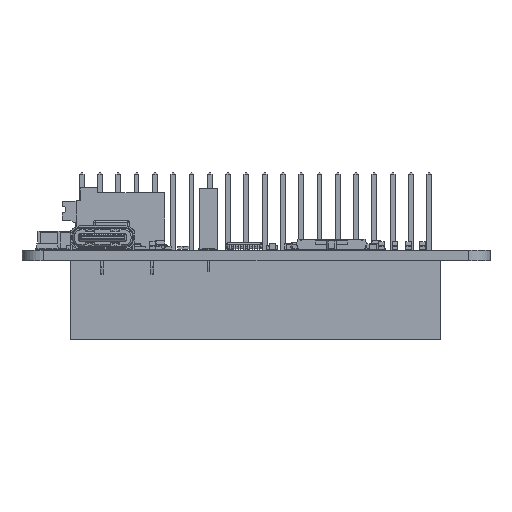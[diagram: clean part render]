
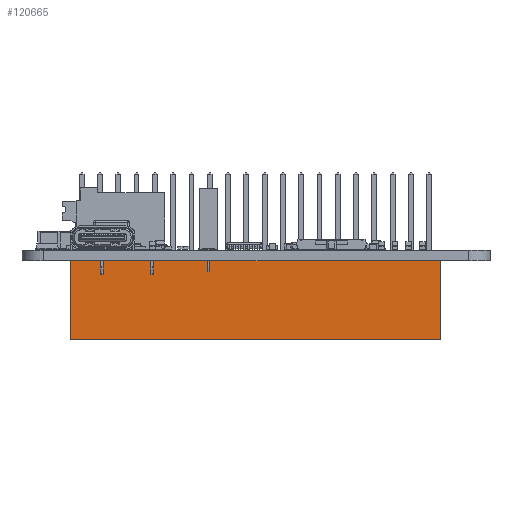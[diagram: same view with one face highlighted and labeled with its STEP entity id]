
A CAD part, front view. The second image highlights one B-rep face of the part: STEP entity #120665.
In plain terms, the highlighted planar face has unit normal (0, -1, 0).
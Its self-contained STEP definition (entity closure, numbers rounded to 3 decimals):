
#119178 = VERTEX_POINT('',#119179);
#119179 = CARTESIAN_POINT('',(6.7,49.93,0.115));
#119185 = EDGE_CURVE('',#119178,#119186,#119188,.T.);
#119186 = VERTEX_POINT('',#119187);
#119187 = CARTESIAN_POINT('',(6.7,49.93,-10.935));
#119188 = LINE('',#119189,#119190);
#119189 = CARTESIAN_POINT('',(6.7,49.93,0.115));
#119190 = VECTOR('',#119191,1.);
#119191 = DIRECTION('',(0.,0.,-1.));
#119262 = EDGE_CURVE('',#119186,#119263,#119265,.T.);
#119263 = VERTEX_POINT('',#119264);
#119264 = CARTESIAN_POINT('',(58.16,49.93,-10.935));
#119265 = LINE('',#119266,#119267);
#119266 = CARTESIAN_POINT('',(6.7,49.93,-10.935));
#119267 = VECTOR('',#119268,1.);
#119268 = DIRECTION('',(1.,0.,0.));
#120665 = ADVANCED_FACE('',(#120666),#120684,.T.);
#120666 = FACE_BOUND('',#120667,.T.);
#120667 = EDGE_LOOP('',(#120668,#120676,#120677,#120678));
#120668 = ORIENTED_EDGE('',*,*,#120669,.F.);
#120669 = EDGE_CURVE('',#119178,#120670,#120672,.T.);
#120670 = VERTEX_POINT('',#120671);
#120671 = CARTESIAN_POINT('',(58.16,49.93,0.115));
#120672 = LINE('',#120673,#120674);
#120673 = CARTESIAN_POINT('',(6.7,49.93,0.115));
#120674 = VECTOR('',#120675,1.);
#120675 = DIRECTION('',(1.,0.,0.));
#120676 = ORIENTED_EDGE('',*,*,#119185,.T.);
#120677 = ORIENTED_EDGE('',*,*,#119262,.T.);
#120678 = ORIENTED_EDGE('',*,*,#120679,.F.);
#120679 = EDGE_CURVE('',#120670,#119263,#120680,.T.);
#120680 = LINE('',#120681,#120682);
#120681 = CARTESIAN_POINT('',(58.16,49.93,0.115));
#120682 = VECTOR('',#120683,1.);
#120683 = DIRECTION('',(0.,0.,-1.));
#120684 = PLANE('',#120685);
#120685 = AXIS2_PLACEMENT_3D('',#120686,#120687,#120688);
#120686 = CARTESIAN_POINT('',(6.7,49.93,0.115));
#120687 = DIRECTION('',(0.,-1.,0.));
#120688 = DIRECTION('',(0.,0.,-1.));
